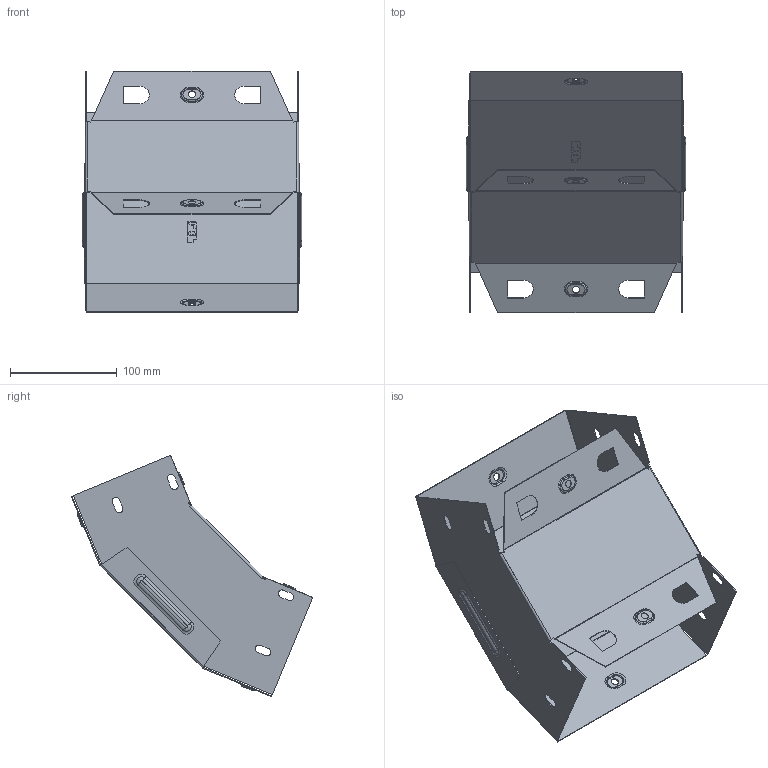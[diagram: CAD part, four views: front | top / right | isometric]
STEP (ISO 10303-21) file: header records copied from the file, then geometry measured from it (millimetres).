
FILE_DESCRIPTION (( 'STEP AP214' ), '1' );
FILE_NAME ('vo45100200_捘.STEP', '2019-06-10T08:17:24', ( '砐錪賧瘔蠈錪 Windows' ), ( '' ), 'SwSTEP 2.0', 'SolidWorks 2018', '' );
FILE_SCHEMA (( 'AUTOMOTIVE_DESIGN' ));
Length unit declared in the file: millimetre
Products named in the file (1): vo45100200_捘
Bounding box: 205.6 x 226.34 x 226.34 mm (x, y, z)
Volume: 114115.4 mm3; surface area: 288040.1 mm2
Topology: 2 solids, 2 shells, 388 faces, 966 edges, 604 vertices
Faces by surface type: plane 185, cylinder 122, torus 64, bspline 17
Entity records: 12174 total; most frequent: CARTESIAN_POINT 2723, DIRECTION 1984, ORIENTED_EDGE 1932, EDGE_CURVE 966, AXIS2_PLACEMENT_3D 696, VERTEX_POINT 604, LINE 592, VECTOR 592
